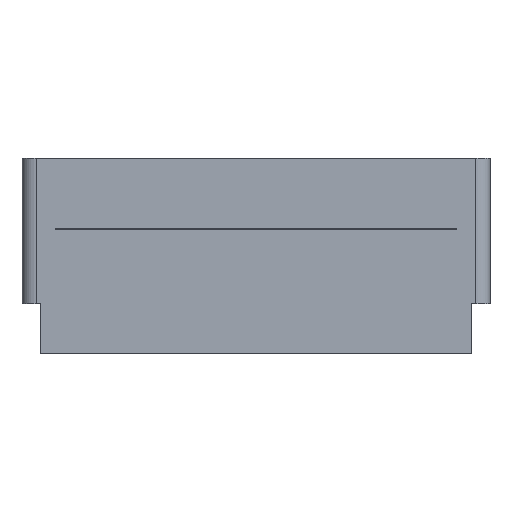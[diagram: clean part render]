
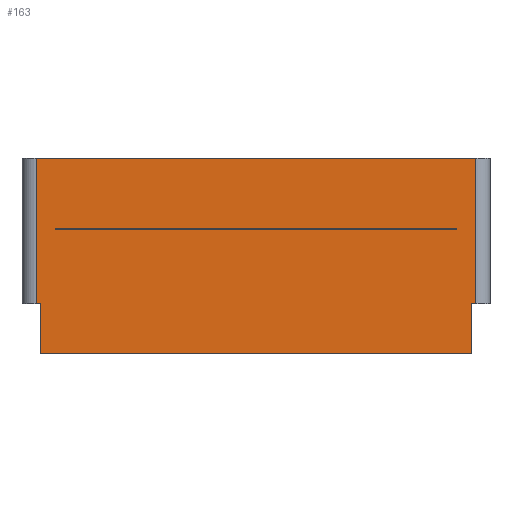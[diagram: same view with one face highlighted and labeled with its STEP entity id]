
A CAD part, left-side view. The second image highlights one B-rep face of the part: STEP entity #163.
In plain terms, the highlighted planar face has unit normal (-1, 0, 0).
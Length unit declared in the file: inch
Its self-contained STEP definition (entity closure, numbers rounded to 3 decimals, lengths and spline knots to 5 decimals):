
#97=FACE_BOUND('',#682,.T.);
#163=ADVANCED_FACE('',(#505,#97),#337,.T.);
#337=PLANE('',#3406);
#505=FACE_OUTER_BOUND('',#681,.T.);
#681=EDGE_LOOP('',(#1006,#1007,#1008,#1009,#1010,#1011,#1012,#1013));
#682=EDGE_LOOP('',(#1014,#1015,#1016,#1017));
#1006=ORIENTED_EDGE('',*,*,#2138,.T.);
#1007=ORIENTED_EDGE('',*,*,#2167,.T.);
#1008=ORIENTED_EDGE('',*,*,#2168,.T.);
#1009=ORIENTED_EDGE('',*,*,#2169,.T.);
#1010=ORIENTED_EDGE('',*,*,#2170,.T.);
#1011=ORIENTED_EDGE('',*,*,#2171,.F.);
#1012=ORIENTED_EDGE('',*,*,#2172,.F.);
#1013=ORIENTED_EDGE('',*,*,#2173,.T.);
#1014=ORIENTED_EDGE('',*,*,#2072,.T.);
#1015=ORIENTED_EDGE('',*,*,#2094,.T.);
#1016=ORIENTED_EDGE('',*,*,#2113,.F.);
#1017=ORIENTED_EDGE('',*,*,#2064,.F.);
#1770=VERTEX_POINT('',#4419);
#1771=VERTEX_POINT('',#4421);
#1778=VERTEX_POINT('',#4436);
#1797=VERTEX_POINT('',#4479);
#1830=VERTEX_POINT('',#4564);
#1831=VERTEX_POINT('',#4566);
#1855=VERTEX_POINT('',#4625);
#1856=VERTEX_POINT('',#4627);
#1857=VERTEX_POINT('',#4629);
#1858=VERTEX_POINT('',#4631);
#1859=VERTEX_POINT('',#4633);
#1860=VERTEX_POINT('',#4635);
#2064=EDGE_CURVE('',#1770,#1771,#2517,.T.);
#2072=EDGE_CURVE('',#1770,#1778,#2525,.T.);
#2094=EDGE_CURVE('',#1778,#1797,#2547,.T.);
#2113=EDGE_CURVE('',#1771,#1797,#2566,.T.);
#2138=EDGE_CURVE('',#1831,#1830,#2585,.T.);
#2167=EDGE_CURVE('',#1830,#1855,#2608,.T.);
#2168=EDGE_CURVE('',#1855,#1856,#2609,.T.);
#2169=EDGE_CURVE('',#1856,#1857,#2610,.T.);
#2170=EDGE_CURVE('',#1857,#1858,#2611,.T.);
#2171=EDGE_CURVE('',#1859,#1858,#2612,.T.);
#2172=EDGE_CURVE('',#1860,#1859,#2613,.T.);
#2173=EDGE_CURVE('',#1860,#1831,#2614,.T.);
#2517=LINE('',#4420,#2950);
#2525=LINE('',#4437,#2958);
#2547=LINE('',#4480,#2980);
#2566=LINE('',#4517,#2999);
#2585=LINE('',#4565,#3018);
#2608=LINE('',#4624,#3041);
#2609=LINE('',#4626,#3042);
#2610=LINE('',#4628,#3043);
#2611=LINE('',#4630,#3044);
#2612=LINE('',#4632,#3045);
#2613=LINE('',#4634,#3046);
#2614=LINE('',#4636,#3047);
#2950=VECTOR('',#3586,1.);
#2958=VECTOR('',#3596,1.);
#2980=VECTOR('',#3622,1.);
#2999=VECTOR('',#3653,1.);
#3018=VECTOR('',#3688,1.);
#3041=VECTOR('',#3735,1.);
#3042=VECTOR('',#3736,1.);
#3043=VECTOR('',#3737,1.);
#3044=VECTOR('',#3738,1.);
#3045=VECTOR('',#3739,1.);
#3046=VECTOR('',#3740,1.);
#3047=VECTOR('',#3741,1.);
#3406=AXIS2_PLACEMENT_3D('',#4637,#3742,#3743);
#3586=DIRECTION('',(0.,1.,0.));
#3596=DIRECTION('',(0.,0.,-1.));
#3622=DIRECTION('',(0.,1.,0.));
#3653=DIRECTION('',(0.,0.,-1.));
#3688=DIRECTION('',(0.,1.,0.));
#3735=DIRECTION('',(0.,0.,-1.));
#3736=DIRECTION('',(0.,-1.,0.));
#3737=DIRECTION('',(0.,0.,-1.));
#3738=DIRECTION('',(0.,-1.,0.));
#3739=DIRECTION('',(0.,0.,-1.));
#3740=DIRECTION('',(0.,1.,0.));
#3741=DIRECTION('',(0.,0.,1.));
#3742=DIRECTION('',(-1.,0.,0.));
#3743=DIRECTION('',(0.,0.,1.));
#4419=CARTESIAN_POINT('',(0.,0.07,0.262));
#4420=CARTESIAN_POINT('',(0.,0.07,0.262));
#4421=CARTESIAN_POINT('',(0.,0.91,0.262));
#4436=CARTESIAN_POINT('',(0.,0.07,0.26));
#4437=CARTESIAN_POINT('',(0.,0.07,0.262));
#4479=CARTESIAN_POINT('',(0.,0.91,0.26));
#4480=CARTESIAN_POINT('',(0.,0.07,0.26));
#4517=CARTESIAN_POINT('',(0.,0.91,0.262));
#4564=CARTESIAN_POINT('',(0.,0.95,0.41));
#4565=CARTESIAN_POINT('',(0.,0.03,0.41));
#4566=CARTESIAN_POINT('',(0.,0.03,0.41));
#4624=CARTESIAN_POINT('',(0.,0.95,0.41));
#4625=CARTESIAN_POINT('',(0.,0.95,0.105));
#4626=CARTESIAN_POINT('',(0.,0.95,0.105));
#4627=CARTESIAN_POINT('',(0.,0.941,0.105));
#4628=CARTESIAN_POINT('',(0.,0.941,0.105));
#4629=CARTESIAN_POINT('',(0.,0.941,0.));
#4630=CARTESIAN_POINT('',(0.,0.941,0.));
#4631=CARTESIAN_POINT('',(0.,0.039,0.));
#4632=CARTESIAN_POINT('',(0.,0.039,0.105));
#4633=CARTESIAN_POINT('',(0.,0.039,0.105));
#4634=CARTESIAN_POINT('',(0.,0.03,0.105));
#4635=CARTESIAN_POINT('',(0.,0.03,0.105));
#4636=CARTESIAN_POINT('',(0.,0.03,0.105));
#4637=CARTESIAN_POINT('',(0.,0.49,0.));
